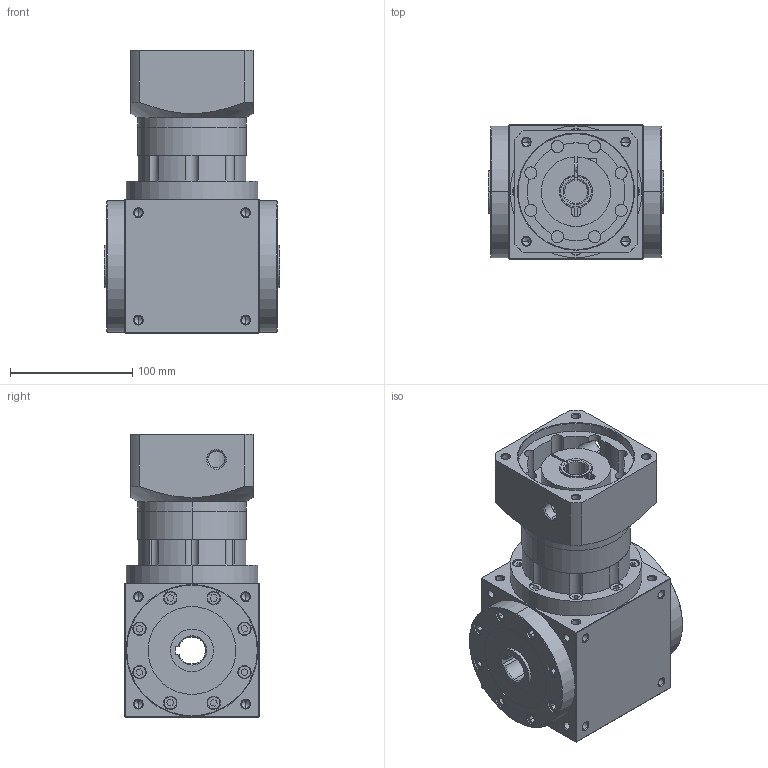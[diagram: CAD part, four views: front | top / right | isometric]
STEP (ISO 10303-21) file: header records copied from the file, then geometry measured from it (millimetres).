
FILE_DESCRIPTION (( 'STEP AP203' ), '1' );
FILE_NAME ('AT120-FH-L2-19-95-115M8.STEP', '2025-08-14T06:20:25', ( 'Windows User' ), ( 'P R C' ), 'SwSTEP 2.0', 'SolidWorks 2016', '' );
FILE_SCHEMA (( 'CONFIG_CONTROL_DESIGN' ));
Length unit declared in the file: millimetre
Products named in the file (7): 输入轴套-24-19; AT120-FH-L2-19-95-115M8; AT120-蛌褒眊极-謂怀堤; AT120-怀堤楊擘-蠶講; 输入胀套-27; AT120-单级齿圈; AT120-输入法兰-J-2-50-95-M8-115-方100
Assembly tree (6 placements, depth 2):
  AT120-FH-L2-19-95-115M8
    AT120-蛌褒眊极-謂怀堤
    AT120-怀堤楊擘-蠶講
    输入胀套-27
    AT120-单级齿圈
    AT120-输入法兰-J-2-50-95-M8-115-方100
    输入轴套-24-19
Bounding box: 144 x 110 x 232 mm (x, y, z)
Volume: 1786399.2 mm3; surface area: 295244.8 mm2
Topology: 6 solids, 18 shells, 1571 faces, 4107 edges, 2620 vertices
Faces by surface type: plane 802, cylinder 382, cone 229, bspline 158
Entity records: 55226 total; most frequent: CARTESIAN_POINT 17290, ORIENTED_EDGE 8038, DIRECTION 7146, EDGE_CURVE 4019, VERTEX_POINT 2620, VECTOR 2568, LINE 2568, AXIS2_PLACEMENT_3D 2289
